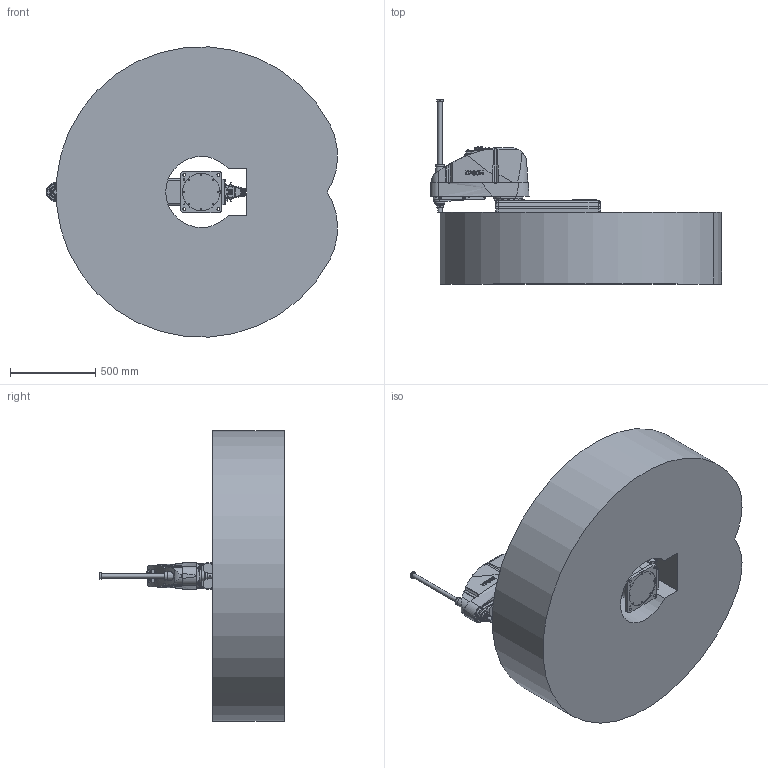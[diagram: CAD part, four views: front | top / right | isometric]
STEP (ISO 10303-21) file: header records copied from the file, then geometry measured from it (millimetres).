
FILE_DESCRIPTION( ( 'STEP AP214' ), '1' );
FILE_NAME( 'C:/Users/9607552/Desktop/GX10-B854S_straight.stp', '2023-08-01T09:14:08', ( '' ), ( '' ), ' ', 'PARTsolutions', ' ' );
FILE_SCHEMA( ( 'AUTOMOTIVE_DESIGN { 1 0 10303 214 1 1 1 1 }' ) );
Length unit declared in the file: millimetre
Products named in the file (7): GX10-B854SS-W; _Base s; _Straight-B; _J1 Arm GX10-450; _J2 Arm GX10-s; _J3 Arm GX10-s (4); _GX10_20B-22_4
Assembly tree (6 placements, depth 2):
  GX10-B854SS-W
    _Base s
    _Straight-B
    _J1 Arm GX10-450
    _J2 Arm GX10-s
    _J3 Arm GX10-s (4)
    _GX10_20B-22_4
Bounding box: 1702.55 x 1080 x 1697.41 mm (x, y, z)
Volume: 916114281.1 mm3; surface area: 8465566.3 mm2
Topology: 6 solids, 6 shells, 2420 faces, 5915 edges, 3855 vertices
Faces by surface type: plane 1254, cylinder 740, cone 328, torus 65, bspline 32, sphere 1
Full cylindrical faces by diameter (mm): 1 x24, 1.18 x55, 3 x32, 3.242 x10, 3.3 x4, 4.2 x4, 4.8 x4, 5.1 x4, 5.25 x2, 5.34 x4, 5.4 x5, 5.5 x12, 6 x1, 6.2 x4, 6.647 x2, 7 x31, 8 x9, 8.5 x2, 9 x4, 10 x32, 11 x14, 12 x6, 12.25 x1, 13 x2, 14 x8, 14.25 x1, 16 x6, 18 x1, 20.4 x1, 21.7 x2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
Entity records: 91839 total; most frequent: CARTESIAN_POINT 17766, DIRECTION 11264, ORIENTED_EDGE 10522, EDGE_CURVE 5261, AXIS2_PLACEMENT_3D 4332, VERTEX_POINT 3770, EDGE_LOOP 3363, FACE_OUTER_BOUND 2782
